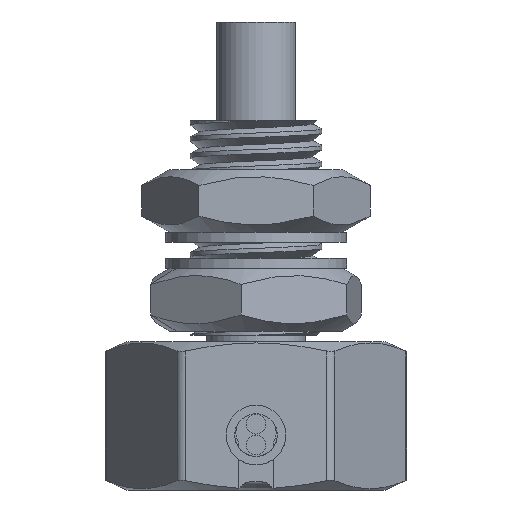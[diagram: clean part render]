
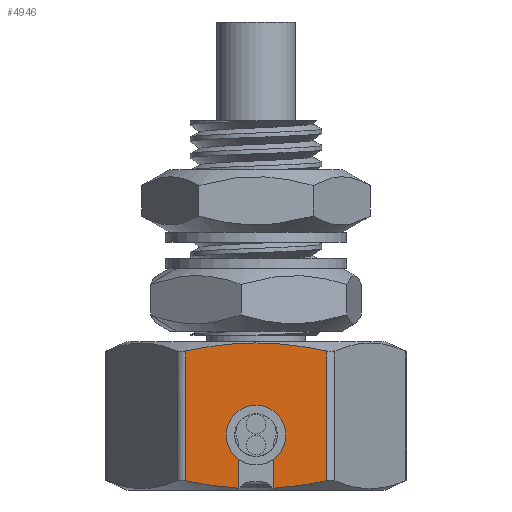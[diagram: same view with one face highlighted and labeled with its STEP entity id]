
A CAD part, front view. The second image highlights one B-rep face of the part: STEP entity #4946.
In plain terms, the highlighted planar face has unit normal (0, -1, 0).
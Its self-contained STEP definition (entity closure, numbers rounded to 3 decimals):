
#211 = ORIENTED_EDGE ( 'NONE', *, *, #7631, .T. ) ;
#300 = CARTESIAN_POINT ( 'NONE',  ( 0., -4., -0.583 ) ) ;
#446 = CARTESIAN_POINT ( 'NONE',  ( 1.427, -4., 2.106 ) ) ;
#809 = B_SPLINE_CURVE_WITH_KNOTS ( 'NONE', 3,
 ( #4191, #7628, #10740, #11949 ),
 .UNSPECIFIED., .F., .F.,
 ( 4, 4 ),
 ( 0.004, 0.006 ),
 .UNSPECIFIED. ) ;
#813 = CARTESIAN_POINT ( 'NONE',  ( -0.52, -4., -2.196 ) ) ;
#848 = AXIS2_PLACEMENT_3D ( 'NONE', #1165, #7865, #1217 ) ;
#1153 = EDGE_CURVE ( 'NONE', #2083, #9705, #8325, .T. ) ;
#1165 = CARTESIAN_POINT ( 'NONE',  ( 0., -4., -0.583 ) ) ;
#1185 = PLANE ( 'NONE',  #8207 ) ;
#1217 = DIRECTION ( 'NONE',  ( 1., 0., 0. ) ) ;
#1382 = VECTOR ( 'NONE', #9458, 1000. ) ;
#1401 = CARTESIAN_POINT ( 'NONE',  ( 0.52, -4., -2.196 ) ) ;
#1507 = CARTESIAN_POINT ( 'NONE',  ( -2.136, -4., 1.968 ) ) ;
#1588 = LINE ( 'NONE', #10325, #13038 ) ;
#1624 = CARTESIAN_POINT ( 'NONE',  ( -2.136, -4., -1.968 ) ) ;
#1638 = EDGE_CURVE ( 'NONE', #2083, #2095, #6459, .T. ) ;
#1710 = EDGE_CURVE ( 'NONE', #11965, #4280, #5324, .T. ) ;
#2083 = VERTEX_POINT ( 'NONE', #6927 ) ;
#2095 = VERTEX_POINT ( 'NONE', #6733 ) ;
#2362 = ORIENTED_EDGE ( 'NONE', *, *, #1710, .F. ) ;
#2669 = CARTESIAN_POINT ( 'NONE',  ( 1.785, -4., 2.044 ) ) ;
#2684 = CARTESIAN_POINT ( 'NONE',  ( -0.52, -4., -2.196 ) ) ;
#2950 = DIRECTION ( 'NONE',  ( 1., 0., 0. ) ) ;
#3634 = CARTESIAN_POINT ( 'NONE',  ( 2.136, -4., 1.968 ) ) ;
#3688 = CARTESIAN_POINT ( 'NONE',  ( 0.713, -4., 2.19 ) ) ;
#3794 = DIRECTION ( 'NONE',  ( 0., 0., 1. ) ) ;
#3832 = CARTESIAN_POINT ( 'NONE',  ( 1.604, -4., -2.082 ) ) ;
#3924 = CARTESIAN_POINT ( 'NONE',  ( 0., -4., -0.583 ) ) ;
#3982 = EDGE_CURVE ( 'NONE', #4280, #8902, #7872, .T. ) ;
#4025 = CARTESIAN_POINT ( 'NONE',  ( -0.904, -4., -0.583 ) ) ;
#4191 = CARTESIAN_POINT ( 'NONE',  ( -2.136, -4., -1.968 ) ) ;
#4280 = VERTEX_POINT ( 'NONE', #4025 ) ;
#4491 = LINE ( 'NONE', #10672, #1382 ) ;
#4790 = CARTESIAN_POINT ( 'NONE',  ( -1.784, -4., 2.044 ) ) ;
#4812 = CARTESIAN_POINT ( 'NONE',  ( 2.136, -4., 1.968 ) ) ;
#4841 = CARTESIAN_POINT ( 'NONE',  ( -0.713, -4., 2.19 ) ) ;
#4946 = ADVANCED_FACE ( 'NONE', ( #5919 ), #1185, .F. ) ;
#5324 = CIRCLE ( 'NONE', #5999, 0.904 ) ;
#5350 = VECTOR ( 'NONE', #3794, 1000. ) ;
#5482 = ORIENTED_EDGE ( 'NONE', *, *, #11996, .F. ) ;
#5535 = VECTOR ( 'NONE', #10349, 1000. ) ;
#5917 = DIRECTION ( 'NONE',  ( 1., 0., 0. ) ) ;
#5919 = FACE_OUTER_BOUND ( 'NONE', #11682, .T. ) ;
#5999 = AXIS2_PLACEMENT_3D ( 'NONE', #3924, #10711, #2950 ) ;
#6042 = EDGE_CURVE ( 'NONE', #2095, #11943, #1588, .T. ) ;
#6459 = B_SPLINE_CURVE_WITH_KNOTS ( 'NONE', 3,
 ( #1401, #10365, #3832, #11541 ),
 .UNSPECIFIED., .F., .F.,
 ( 4, 4 ),
 ( 0.007, 0.008 ),
 .UNSPECIFIED. ) ;
#6482 = ORIENTED_EDGE ( 'NONE', *, *, #10805, .T. ) ;
#6733 = CARTESIAN_POINT ( 'NONE',  ( 2.136, -4., -1.968 ) ) ;
#6900 = CARTESIAN_POINT ( 'NONE',  ( 0.357, -4., 2.212 ) ) ;
#6918 = CARTESIAN_POINT ( 'NONE',  ( -2.309, -4., 2.25 ) ) ;
#6927 = CARTESIAN_POINT ( 'NONE',  ( 0.52, -4., -2.196 ) ) ;
#7071 = DIRECTION ( 'NONE',  ( 0., -1., 0. ) ) ;
#7186 = VERTEX_POINT ( 'NONE', #1624 ) ;
#7505 = ORIENTED_EDGE ( 'NONE', *, *, #14004, .T. ) ;
#7628 = CARTESIAN_POINT ( 'NONE',  ( -1.603, -4., -2.083 ) ) ;
#7631 = EDGE_CURVE ( 'NONE', #8888, #7186, #4491, .T. ) ;
#7865 = DIRECTION ( 'NONE',  ( 0., -1., 0. ) ) ;
#7872 = CIRCLE ( 'NONE', #848, 0.904 ) ;
#8207 = AXIS2_PLACEMENT_3D ( 'NONE', #6918, #13637, #12531 ) ;
#8325 = LINE ( 'NONE', #13983, #5350 ) ;
#8411 = AXIS2_PLACEMENT_3D ( 'NONE', #300, #7071, #5917 ) ;
#8575 = CARTESIAN_POINT ( 'NONE',  ( -2.136, -4., 1.968 ) ) ;
#8660 = CARTESIAN_POINT ( 'NONE',  ( -0.52, -4., -1.322 ) ) ;
#8888 = VERTEX_POINT ( 'NONE', #8575 ) ;
#8902 = VERTEX_POINT ( 'NONE', #8660 ) ;
#9269 = CARTESIAN_POINT ( 'NONE',  ( -0.357, -4., 2.212 ) ) ;
#9458 = DIRECTION ( 'NONE',  ( 0., 0., -1. ) ) ;
#9705 = VERTEX_POINT ( 'NONE', #10465 ) ;
#10217 = ORIENTED_EDGE ( 'NONE', *, *, #6042, .T. ) ;
#10325 = CARTESIAN_POINT ( 'NONE',  ( 2.136, -4., 2.25 ) ) ;
#10349 = DIRECTION ( 'NONE',  ( 0., 0., -1. ) ) ;
#10365 = CARTESIAN_POINT ( 'NONE',  ( 1.06, -4., -2.165 ) ) ;
#10465 = CARTESIAN_POINT ( 'NONE',  ( 0.52, -4., -1.322 ) ) ;
#10672 = CARTESIAN_POINT ( 'NONE',  ( -2.136, -4., 2.25 ) ) ;
#10711 = DIRECTION ( 'NONE',  ( 0., -1., 0. ) ) ;
#10740 = CARTESIAN_POINT ( 'NONE',  ( -1.06, -4., -2.165 ) ) ;
#10805 = EDGE_CURVE ( 'NONE', #11943, #8888, #13660, .T. ) ;
#11114 = ORIENTED_EDGE ( 'NONE', *, *, #12317, .F. ) ;
#11321 = VERTEX_POINT ( 'NONE', #813 ) ;
#11355 = DIRECTION ( 'NONE',  ( 0., 0., 1. ) ) ;
#11397 = CARTESIAN_POINT ( 'NONE',  ( -1.427, -4., 2.106 ) ) ;
#11451 = LINE ( 'NONE', #2684, #5535 ) ;
#11541 = CARTESIAN_POINT ( 'NONE',  ( 2.136, -4., -1.968 ) ) ;
#11682 = EDGE_LOOP ( 'NONE', ( #11114, #12889, #14197, #10217, #6482, #211, #7505, #5482, #14246, #2362 ) ) ;
#11943 = VERTEX_POINT ( 'NONE', #4812 ) ;
#11949 = CARTESIAN_POINT ( 'NONE',  ( -0.52, -4., -2.196 ) ) ;
#11965 = VERTEX_POINT ( 'NONE', #13746 ) ;
#11996 = EDGE_CURVE ( 'NONE', #8902, #11321, #11451, .T. ) ;
#12125 = CIRCLE ( 'NONE', #8411, 0.904 ) ;
#12317 = EDGE_CURVE ( 'NONE', #9705, #11965, #12125, .T. ) ;
#12531 = DIRECTION ( 'NONE',  ( -1., 0., 0. ) ) ;
#12889 = ORIENTED_EDGE ( 'NONE', *, *, #1153, .F. ) ;
#13038 = VECTOR ( 'NONE', #11355, 1000. ) ;
#13637 = DIRECTION ( 'NONE',  ( 0., 1., 0. ) ) ;
#13660 = B_SPLINE_CURVE_WITH_KNOTS ( 'NONE', 3,
 ( #3634, #2669, #446, #3688, #6900, #9269, #4841, #11397, #4790, #1507 ),
 .UNSPECIFIED., .F., .F.,
 ( 4, 2, 2, 2, 4 ),
 ( 0.007, 0.008, 0.009, 0.011, 0.012 ),
 .UNSPECIFIED. ) ;
#13746 = CARTESIAN_POINT ( 'NONE',  ( 0.904, -4., -0.583 ) ) ;
#13983 = CARTESIAN_POINT ( 'NONE',  ( 0.52, -4., -2.196 ) ) ;
#14004 = EDGE_CURVE ( 'NONE', #7186, #11321, #809, .T. ) ;
#14197 = ORIENTED_EDGE ( 'NONE', *, *, #1638, .T. ) ;
#14246 = ORIENTED_EDGE ( 'NONE', *, *, #3982, .F. ) ;
